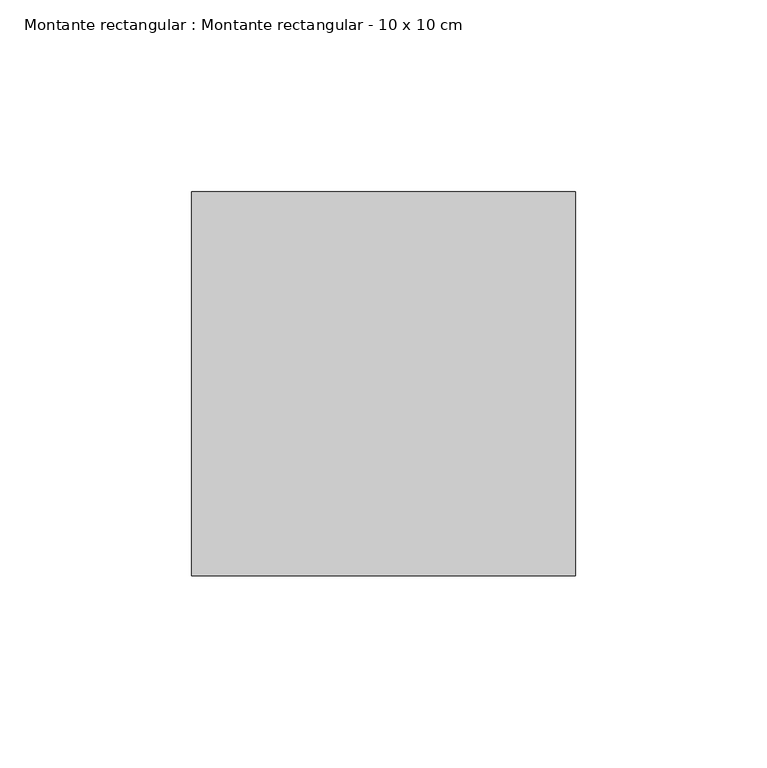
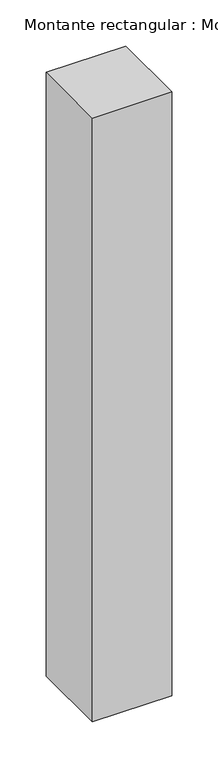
"""IFC4 building model written with IfcOpenShell, lengths in millimetres: member geometry, Montante rectangular : Montante rectangular - 10 x 10 cm."""

from ifc_helpers import new_model, si_unit, frame, origin, place, context, project, spatial, polyline, outline, extrude, source, transform, mapped, element, save


def montante_rectangular_montante_rectangular_10_x_10_cm_b34eec0c(model_context):
    return source(origin(), model_context, "Body", "SweptSolid", [
        extrude(outline(polyline([(-100.0, -50.0), (-100.0, 50.0), (0.0, 50.0), (0.0, -50.0), (-100.0, -50.0)])), frame((0.0, 0.0, -800.0), z_axis=(0.0, 0.0, 1.0), x_axis=(1.0, 0.0, 0.0)), (0.0, 0.0, 1.0), 800.0),
    ])


if __name__ == "__main__":
    model = new_model("IFC4")
    model_context = context("Model", 3, world=origin())
    ifc_project = project(units=[si_unit("LENGTHUNIT", "METRE", prefix="MILLI")], contexts=[model_context])
    site = spatial("IfcSite", under=ifc_project)
    building = spatial("IfcBuilding", under=site)
    placement = place(None, origin())
    montante_rectangular_montante_rectangular_10_x_10_cm_shape = montante_rectangular_montante_rectangular_10_x_10_cm_b34eec0c(model_context)
    element("IfcMember", 1, ObjectType="Montante rectangular : Montante rectangular - 10 x 10 cm", at=placement, inside=building, context=model_context, shape_type="MappedRepresentation", body=[
        mapped(montante_rectangular_montante_rectangular_10_x_10_cm_shape, transform((0.0, 0.0, 0.0), x_axis=(1.0, 0.0, 0.0), y_axis=(0.0, 1.0, 0.0), z_axis=(0.0, 0.0, 1.0))),
    ])
    save(model, "model.ifc")
